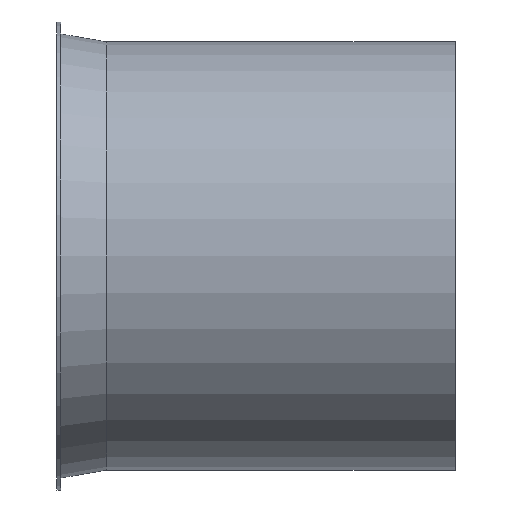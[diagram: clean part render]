
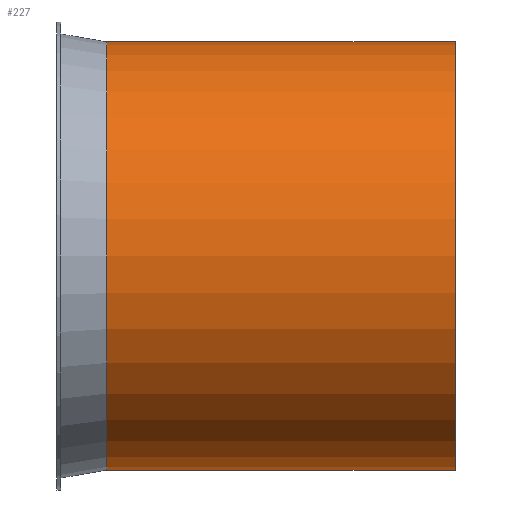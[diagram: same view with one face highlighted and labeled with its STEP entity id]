
A CAD part, front view. The second image highlights one B-rep face of the part: STEP entity #227.
In plain terms, the highlighted cylindrical face has radius 107.5 mm (diameter 215 mm), a full revolution.
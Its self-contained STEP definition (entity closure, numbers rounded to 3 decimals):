
#132=CARTESIAN_POINT('',(-2.081,46.834,0.0));
#133=VERTEX_POINT('',#132);
#134=CARTESIAN_POINT('',(-2.081,154.334,0.0));
#135=DIRECTION('',(-1.0,0.0,0.0));
#136=DIRECTION('',(0.0,-1.0,0.0));
#137=AXIS2_PLACEMENT_3D('',#134,#135,#136);
#138=CIRCLE('',#137,107.5);
#139=EDGE_CURVE('',#133,#133,#138,.T.);
#201=CARTESIAN_POINT('',(172.919,46.834,0.0));
#202=VERTEX_POINT('',#201);
#203=CARTESIAN_POINT('',(172.919,154.334,0.0));
#204=DIRECTION('',(-1.0,0.0,0.0));
#205=DIRECTION('',(0.0,-1.0,0.0));
#206=AXIS2_PLACEMENT_3D('',#203,#204,#205);
#207=CIRCLE('',#206,107.5);
#208=EDGE_CURVE('',#202,#202,#207,.T.);
#216=CARTESIAN_POINT('',(85.419,154.334,0.0));
#217=DIRECTION('',(-1.0,0.,0.0));
#218=DIRECTION('',(0.0,-1.0,0.0));
#219=AXIS2_PLACEMENT_3D('',#216,#217,#218);
#220=CYLINDRICAL_SURFACE('',#219,107.5);
#221=ORIENTED_EDGE('',*,*,#139,.F.);
#222=EDGE_LOOP('',(#221));
#223=FACE_OUTER_BOUND('',#222,.T.);
#224=ORIENTED_EDGE('',*,*,#208,.T.);
#225=EDGE_LOOP('',(#224));
#226=FACE_BOUND('',#225,.T.);
#227=ADVANCED_FACE('',(#223,#226),#220,.T.);
